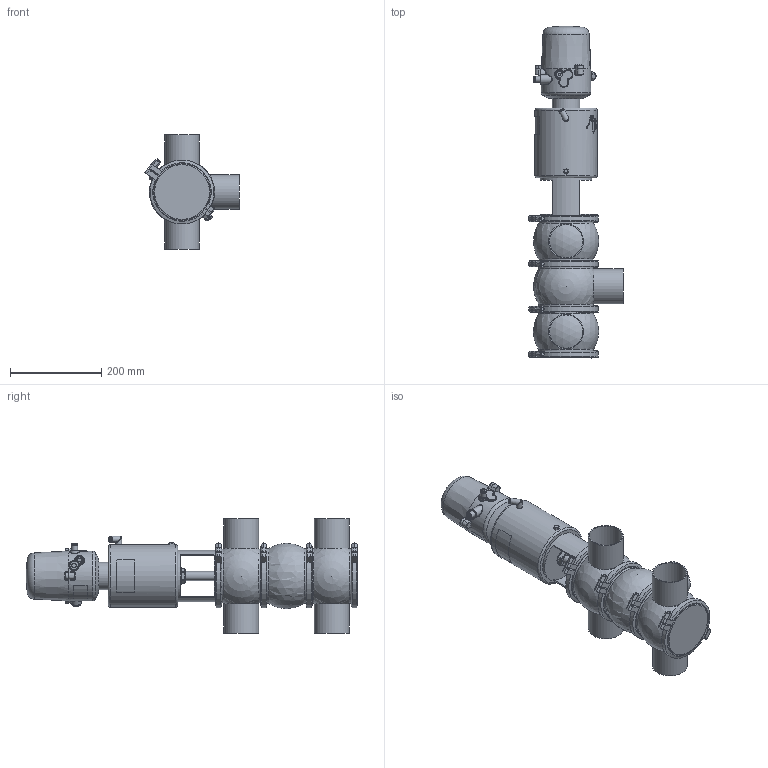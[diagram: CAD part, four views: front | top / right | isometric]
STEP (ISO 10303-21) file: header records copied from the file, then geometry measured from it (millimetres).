
FILE_DESCRIPTION (( 'STEP AP214' ), '1' );
FILE_NAME ('INNOVA L W W OD 3 T3 AS NC & C-TOP S_10.241.16.0064.STEP', '2024-08-06T12:22:56', ( '' ), ( '' ), 'SwSTEP 2.0', 'SolidWorks 2023', '' );
FILE_SCHEMA (( 'AUTOMOTIVE_DESIGN' ));
Length unit declared in the file: millimetre
Products named in the file (9): 10.240.15.0010_DN 080; 10.241.15.0001_DIN 080; 10.240.15.0001_DN 080; 10.240.15.0017_Estàndard; 10.240.15.0007_OD 3"; 10.240.15.0006_OD 3"; 10.240.15.0014_T3 AS P180; INNOVA L W W OD 3 T3 AS NC & C-TOP S_10.241.16.0064; 10.426.15.0001_C-TOP S - 1 EV
Assembly tree (12 placements, depth 2):
  INNOVA L W W OD 3 T3 AS NC & C-TOP S_10.241.16.0064
    10.240.15.0007_OD 3"  x2
    10.240.15.0006_OD 3"
    10.240.15.0010_DN 080
    10.240.15.0014_T3 AS P180
    10.240.15.0017_Estàndard
    10.426.15.0001_C-TOP S - 1 EV
    10.240.15.0001_DN 080  x4
    10.241.15.0001_DIN 080
Bounding box: 206.43 x 726.63 x 250 mm (x, y, z)
Volume: 8411102.6 mm3; surface area: 754520.9 mm2
Topology: 13 solids, 13 shells, 1315 faces, 3201 edges, 2124 vertices
Faces by surface type: plane 479, cylinder 407, cone 221, bspline 160, torus 36, sphere 12
Full cylindrical faces by diameter (mm): 0.371 x17, 0.512 x16, 0.658 x16, 0.795 x16, 0.94 x15, 1.098 x15, 1.241 x13, 1.382 x13, 1.523 x11, 1.669 x10, 2.201 x1, 4 x2, 5.5 x2, 6 x2, 6.15 x1, 8 x10, 8.5 x1, 10 x1, 10.5 x1, 11 x2, 12.5 x3, 13 x2, 13.5 x2, 16 x1, 17 x3, 20 x3, 20.5 x1, 22 x2, 31 x1, 34.5 x3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
Entity records: 58121 total; most frequent: CARTESIAN_POINT 27775, ORIENTED_EDGE 4516, DIRECTION 3677, EDGE_CURVE 2258, VERTEX_POINT 1609, EDGE_LOOP 1579, AXIS2_PLACEMENT_3D 1510, FACE_OUTER_BOUND 1339
